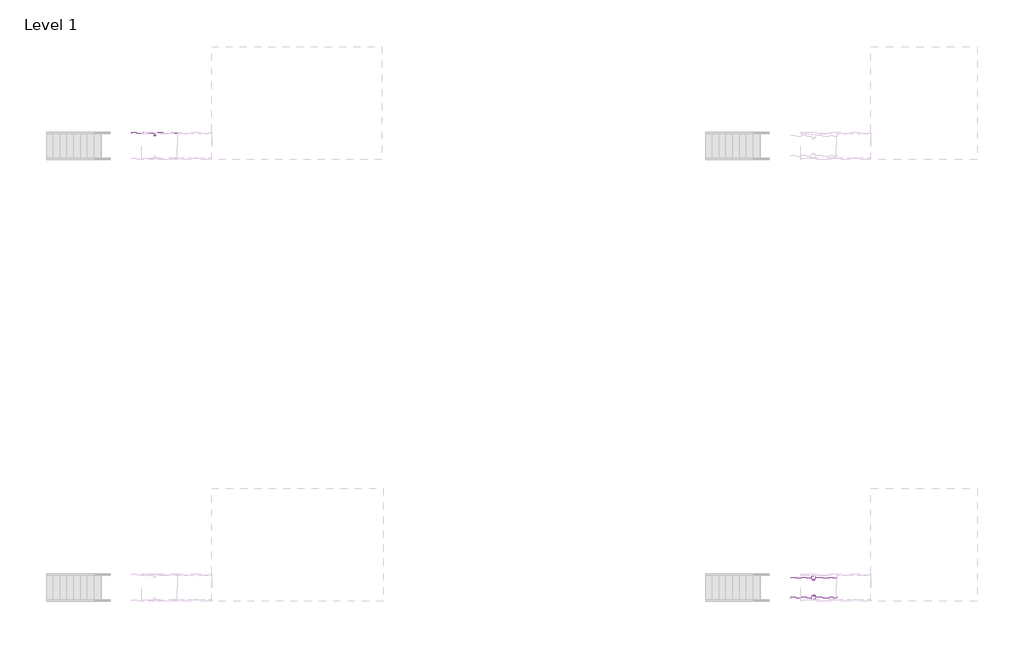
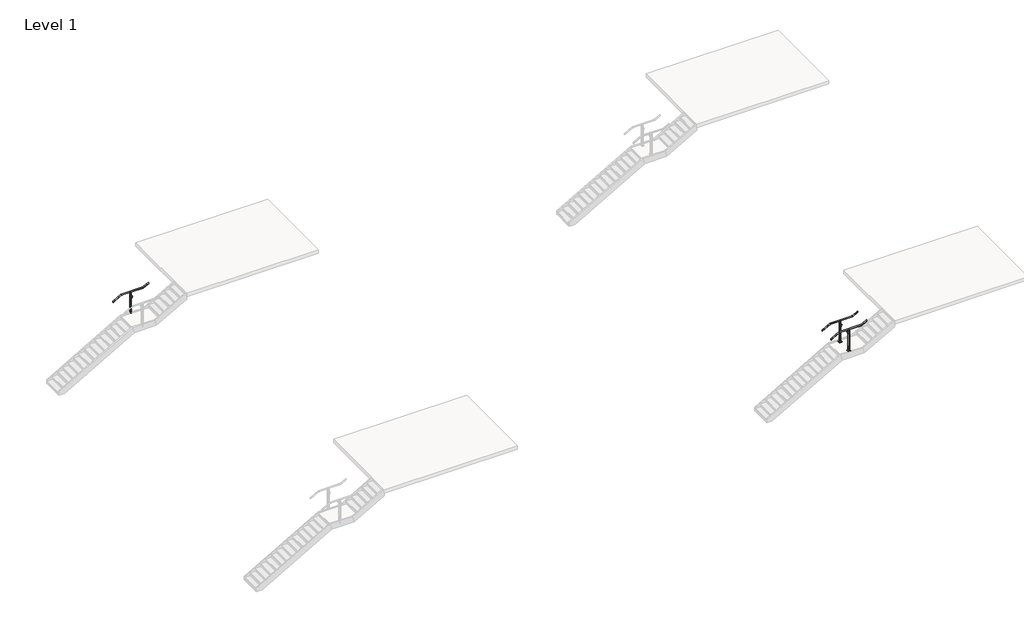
# One storey, part 25 of 36: 3 railings.
"""IFC4 building model written with IfcOpenShell, lengths in millimetres."""

from ifc_helpers import new_model, si_unit, point, frame, frame_2d, origin, place, context, project, spatial, polyline, circle_curve, ellipse_curve, trimmed, segment, composite_curve, outline, extrude, element, save
from ifc_brep_helpers import plane_surface, cylinder_surface, revolved_surface, advanced_brep

model = new_model("IFC4")

# Units and contexts
model_context = context("Model", 3, world=origin())
ifc_project = project(units=[si_unit("LENGTHUNIT", "METRE", prefix="MILLI")], contexts=[model_context])

# Site, building, storey
site = spatial("IfcSite", under=ifc_project)
building = spatial("IfcBuilding", under=site)
storey = spatial("IfcBuildingStorey", under=building, Name="Level 1", Elevation=0.0)

# Railings
placement = place(None, origin())
element("IfcRailing", 1, ObjectType="VIVA-BLADE-Perforated-Weld Mount-Stair-Landing", at=placement, inside=storey, context=model_context, shape_type="SolidModel", body=[
    advanced_brep(
    [(112025.2736551, -1477.5711813, 3047.7740933), (112025.2736551, -1426.7711813, 3047.7740933), (112413.0189918, -1477.5711813, 3269.3428571), (112413.0189918, -1426.7711813, 3269.3428571), (113479.8189918, -1477.5711813, 3269.3428571), (113479.8189918, -1426.7711813, 3269.3428571), (113730.2486551, -1477.5711813, 3412.4455219), (113730.2486551, -1426.7711813, 3412.4455219)],
    [
        (0, 1, ellipse_curve(frame((112025.2736551, -1452.1711813, 3047.7740933), z_axis=(-1.0, 0.0, 0.0), x_axis=(0.0, 0.0, -0.9999999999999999)), 29.2544781, 25.4)),
        (1, 0, ellipse_curve(frame((112025.2736551, -1452.1711813, 3047.7740933), z_axis=(-1.0, 0.0, 0.0), x_axis=(0.0, 0.0, -0.9999999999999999)), 29.2544781, 25.4)),
        (0, 2),
        (2, 3, ellipse_curve(frame((112413.0189918, -1452.1711813, 3269.3428571), z_axis=(-0.9664996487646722, 0.0, -0.2566679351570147), x_axis=(0.25666793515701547, 0.0, -0.9664996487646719)), 26.2804027, 25.4)),
        (3, 1),
        (3, 2, ellipse_curve(frame((112413.0189918, -1452.1711813, 3269.3428571), z_axis=(-0.9664996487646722, 0.0, -0.2566679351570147), x_axis=(0.25666793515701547, 0.0, -0.9664996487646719)), 26.2804027, 25.4)),
        (2, 4),
        (4, 5, ellipse_curve(frame((113479.8189918, -1452.1711813, 3269.3428571), z_axis=(-0.9664996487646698, 0.0, -0.2566679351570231), x_axis=(-0.2566679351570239, 0.0, 0.9664996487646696)), 26.2804027, 25.4)),
        (5, 3),
        (5, 4, ellipse_curve(frame((113479.8189918, -1452.1711813, 3269.3428571), z_axis=(-0.9664996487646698, 0.0, -0.2566679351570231), x_axis=(-0.2566679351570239, 0.0, 0.9664996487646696)), 26.2804027, 25.4)),
        (6, 7, ellipse_curve(frame((113730.2486551, -1452.1711813, 3412.4455219), z_axis=(1.0, 0.0, 0.0), x_axis=(0.0, 0.0, -1.0)), 29.2544781, 25.4)),
        (7, 6, ellipse_curve(frame((113730.2486551, -1452.1711813, 3412.4455219), z_axis=(1.0, 0.0, 0.0), x_axis=(0.0, 0.0, -1.0)), 29.2544781, 25.4)),
        (4, 6),
        (7, 5),
    ],
    [
        plane_surface(frame((112025.2736551, -1452.1711813, 3077.0285714), z_axis=(-1.0, 0.0, 0.0), x_axis=(0.0, 1.0, 0.0))),
        cylinder_surface(frame((112037.8755841, -1452.1711813, 3054.9751956), z_axis=(-0.868243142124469, 0.0, -0.49613893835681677), x_axis=(0.0, 1.0, 0.0)), 25.4),
        cylinder_surface(frame((112406.2736551, -1452.1711813, 3269.3428571), z_axis=(-1.0, 0.0, 0.0), x_axis=(0.0, 1.0, 0.0)), 25.4),
        plane_surface(frame((113730.2486551, -1452.1711813, 3441.7), z_axis=(1.0, 0.0, 0.0), x_axis=(0.0, 1.0, 0.0))),
        cylinder_surface(frame((113485.6755841, -1452.1711813, 3272.6894813), z_axis=(-0.8682431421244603, 0.0, -0.4961389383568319), x_axis=(0.0, 1.0, 0.0)), 25.4),
    ],
    [
        (0, [[1, 2]]),
        (1, [[-1, 3, 4, 5]]),
        (1, [[-2, -5, 6, -3]]),
        (2, [[-4, 7, 8, 9]]),
        (2, [[-6, -9, 10, -7]]),
        (3, [[11, 12]]),
        (4, [[-8, 13, -12, 14]]),
        (4, [[-10, -14, -11, -13]]),
    ],
),
    extrude(outline(composite_curve([segment(trimmed(circle_curve(frame_2d((0.0, -7.0)), 7.0), [point((0.0, -14.0))], [point((0.0, 0.0))], False, "CARTESIAN"), True, "CONTINUOUS"), segment(trimmed(circle_curve(frame_2d((0.0, -7.0)), 7.0), [point((0.0, 0.0))], [point((0.0, -14.0))], False, "CARTESIAN"), True, "CONTINUOUS")], self_intersect=False)), frame((112877.6769052, -1537.8548038, 3013.7229503), z_axis=(0.0012555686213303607, 0.0, 0.999999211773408), x_axis=(0.999999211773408, 0.0, -0.0012555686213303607)), (0.0, 0.0, 1.0), 75.97),
    extrude(outline(composite_curve([segment(polyline([(-1532.5731476, 3098.2581672), (-1531.5467579, 3097.2407802)]), True, "CONTINUOUS"), segment(trimmed(circle_curve(frame_2d((-1532.6027358, 3096.1754583)), 1.5), [point((-1531.5467579, 3097.2407802))], [point((-1531.6173343, 3095.0445366))], False, "CARTESIAN"), True, "CONTINUOUS"), segment(trimmed(circle_curve(frame_2d((-1546.1027358, 3111.669086)), 22.05), [point((-1531.6173343, 3095.0445366))], [point((-1560.5881373, 3095.0445366))], False, "CARTESIAN"), True, "CONTINUOUS"), segment(trimmed(circle_curve(frame_2d((-1559.6027358, 3096.1754583)), 1.5), [point((-1560.5881373, 3095.0445366))], [point((-1560.6587136, 3097.2407802))], False, "CARTESIAN"), True, "CONTINUOUS"), segment(polyline([(-1560.6587136, 3097.2407802), (-1559.632324, 3098.2581672)]), True, "CONTINUOUS"), segment(trimmed(circle_curve(frame_2d((-1546.1027358, 3111.669086)), 19.05), [point((-1559.632324, 3098.2581672))], [point((-1532.5731476, 3098.2581672))], True, "CARTESIAN"), True, "CONTINUOUS")], self_intersect=False)), frame((112841.3255204, 0.0, 0.0), z_axis=(1.0, 0.0, 0.0), x_axis=(0.0, 1.0, 0.0)), (0.0, 0.0, 1.0), 74.5229187),
    extrude(outline(composite_curve([segment(trimmed(circle_curve(frame_2d((3040.5995463, 112877.7368087)), 12.5), [point((3040.5995463, 112865.2368087))], [point((3040.5995463, 112890.2368087))], False, "CARTESIAN"), True, "CONTINUOUS"), segment(trimmed(circle_curve(frame_2d((3040.5995463, 112877.7368087)), 12.5), [point((3040.5995463, 112890.2368087))], [point((3040.5995463, 112865.2368087))], False, "CARTESIAN"), True, "CONTINUOUS")], self_intersect=False)), frame((0.0, -1559.632324, 0.0), z_axis=(0.0, 1.0, 0.0), x_axis=(0.0, 0.0, 1.0)), (0.0, 0.0, 1.0), 82.061346),
    extrude(outline(polyline([(112904.8359907, -1483.920978), (112850.7085907, -1483.920978), (112850.7085907, -1477.570978), (112904.8359907, -1477.570978), (112904.8359907, -1483.920978)])), frame((0.0, 0.0, 3013.6558249), z_axis=(0.0, 0.0, 1.0), x_axis=(1.0, 0.0, 0.0)), (0.0, 0.0, 1.0), 54.1734375),
    advanced_brep(
    [(112922.9985551, -1464.9313049, 3247.3396226), (112922.9985551, -1468.7672024, 3242.9503901), (112922.9985551, -1437.2503101, 3242.3696317), (112922.9985551, -1440.0592404, 3247.1963856), (112832.5237551, -1464.9313049, 3247.3396226), (112832.5237551, -1439.9722683, 3247.2447018), (112832.5237551, -1437.1365167, 3242.4322535), (112832.5237551, -1468.7672024, 3242.9503901)],
    [
        (0, 1, circle_curve(frame((112922.9985551, -1466.4788626, 3244.8213092), z_axis=(1.0, 0.0, 0.0), x_axis=(0.0, -1.0, 0.0)), 2.9558141)),
        (1, 2, circle_curve(frame((112922.9985551, -1452.5009651, 3270.2170736), z_axis=(1.0, 0.0, 0.0), x_axis=(0.0, -1.0, 0.0)), 31.75)),
        (2, 3, circle_curve(frame((112922.9985551, -1438.7276152, 3244.742217), z_axis=(1.0, 0.0, 0.0), x_axis=(0.0, -1.0, 0.0)), 2.7949225)),
        (3, 0, circle_curve(frame((112922.9985551, -1452.3675021, 3269.4544469), z_axis=(-1.0, 0.0, 0.0), x_axis=(0.0, -1.0, 0.0)), 25.4345159)),
        (4, 5, circle_curve(frame((112832.5237551, -1452.3675021, 3269.4544469), z_axis=(1.0, 0.0, 0.0), x_axis=(0.0, -1.0, 0.0)), 25.4345159)),
        (5, 6, circle_curve(frame((112832.5237551, -1438.7276152, 3244.742217), z_axis=(-1.0, 0.0, 0.0), x_axis=(0.0, -1.0, 0.0)), 2.7949225)),
        (6, 7, circle_curve(frame((112832.5237551, -1452.5009651, 3270.2170736), z_axis=(-1.0, 0.0, 0.0), x_axis=(0.0, -1.0, 0.0)), 31.75)),
        (7, 4, circle_curve(frame((112832.5237551, -1466.4788626, 3244.8213092), z_axis=(-1.0, 0.0, 0.0), x_axis=(0.0, -1.0, 0.0)), 2.9558141)),
        (3, 5),
        (4, 0),
        (2, 6),
        (1, 7),
    ],
    [
        plane_surface(frame((112922.9985551, -1477.8020179, 3269.4544469), z_axis=(1.0, 0.0, 0.0), x_axis=(0.0, 0.0, -1.0))),
        plane_surface(frame((112832.5237551, -1477.8020179, 3269.4544469), z_axis=(-1.0, 0.0, 0.0), x_axis=(0.0, 0.0, 1.0))),
        revolved_surface(polyline([(112832.5237551, -1477.8020179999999, 3269.4544469), (112922.9985551, -1477.8020179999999, 3269.4544469)]), (112832.5237551, -1452.3675021, 3269.4544469), (-1.0, 0.0, 0.0)),
        cylinder_surface(frame((112832.5237551, -1438.7276152, 3244.742217), z_axis=(1.0, 0.0, 0.0), x_axis=(0.0, -1.0, 0.0)), 2.7949225),
        cylinder_surface(frame((112832.5237551, -1452.5009651, 3270.2170736), z_axis=(1.0, 0.0, 0.0), x_axis=(0.0, -1.0, 0.0)), 31.75),
        cylinder_surface(frame((112832.5237551, -1466.4788626, 3244.8213092), z_axis=(1.0, 0.0, 0.0), x_axis=(0.0, -1.0, 0.0)), 2.9558141),
    ],
    [
        (0, [[1, 2, 3, 4]]),
        (1, [[5, 6, 7, 8]]),
        (2, [[9, -5, 10, -4]]),
        (3, [[11, -6, -9, -3]]),
        (4, [[12, -7, -11, -2]]),
        (5, [[-10, -8, -12, -1]]),
    ],
),
    advanced_brep(
    [(112890.4611551, -1454.7111813, 3229.6553571), (112904.8290699, -1454.7111813, 3244.023272), (112850.6932402, -1454.7111813, 3244.023272), (112865.0611551, -1454.7111813, 3229.6553571), (112890.4611551, -1449.6311813, 3229.6553571), (112865.0611551, -1449.6311813, 3229.6553571), (112850.6932402, -1449.6311813, 3244.023272), (112904.8290699, -1449.6311813, 3244.023272)],
    [
        (0, 1, circle_curve(frame((112904.8290699, -1454.7111813, 3229.6553571), z_axis=(0.0, 1.0, 0.0), x_axis=(-1.0, 0.0, 0.0)), 14.3679149)),
        (1, 2),
        (2, 3, circle_curve(frame((112850.6932402, -1454.7111813, 3229.6553571), z_axis=(0.0, 1.0, 0.0), x_axis=(-1.0, 0.0, 0.0)), 14.3679149)),
        (3, 0),
        (4, 5),
        (5, 6, circle_curve(frame((112850.6932402, -1449.6311813, 3229.6553571), z_axis=(0.0, -1.0, 0.0), x_axis=(-1.0, 0.0, 0.0)), 14.3679149)),
        (6, 7),
        (7, 4, circle_curve(frame((112904.8290699, -1449.6311813, 3229.6553571), z_axis=(0.0, -1.0, 0.0), x_axis=(-1.0, 0.0, 0.0)), 14.3679149)),
        (3, 5),
        (4, 0),
        (2, 6),
        (1, 7),
    ],
    [
        plane_surface(frame((112865.0611551, -1454.7111813, 3229.6553571), z_axis=(0.0, -1.0, 0.0), x_axis=(-1.0, 0.0, 0.0))),
        plane_surface(frame((112865.0611551, -1449.6311813, 3229.6553571), z_axis=(0.0, 1.0, 0.0), x_axis=(1.0, 0.0, 0.0))),
        plane_surface(frame((112890.4611551, -1454.7111813, 3229.6553571), z_axis=(0.0, 0.0, -1.0), x_axis=(0.0, 1.0, 0.0))),
        revolved_surface(polyline([(112836.3253253, -1449.6311813, 3229.6553571), (112836.3253253, -1454.7111813, 3229.6553571)]), (112850.6932402, -1449.6311813, 3229.6553571), (0.0, 1.0, 0.0)),
        plane_surface(frame((112850.6932402, -1454.7111813, 3244.023272), z_axis=(0.0, 0.0, 1.0), x_axis=(0.0, 1.0, 0.0))),
        revolved_surface(polyline([(112890.46115500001, -1449.6311813, 3229.6553571), (112890.46115500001, -1454.7111813, 3229.6553571)]), (112904.8290699, -1449.6311813, 3229.6553571), (0.0, 1.0, 0.0)),
    ],
    [
        (0, [[1, 2, 3, 4]]),
        (1, [[5, 6, 7, 8]]),
        (2, [[9, -5, 10, -4]]),
        (3, [[11, -6, -9, -3]]),
        (4, [[12, -7, -11, -2]]),
        (5, [[-10, -8, -12, -1]]),
    ],
),
    extrude(outline(polyline([(112850.6863194, -1477.570978), (112850.6863194, -1426.7686534), (112858.7111551, -1426.7686534), (112858.7111551, -1477.570978), (112850.6863194, -1477.570978)])), frame((0.0, 0.0, 2237.6440557), z_axis=(0.0, 0.0, 1.0), x_axis=(1.0, 0.0, 0.0)), (0.0, 0.0, 1.0), 974.5488015),
    extrude(outline(polyline([(112885.6901563, -1477.5705791), (112869.7541659, -1477.5705791), (112869.7541659, -1426.7705869), (112885.6901563, -1426.7705869), (112885.6901563, -1477.5705791)])), frame((0.0, 0.0, 2075.5428571), z_axis=(0.0, 0.0, 1.0), x_axis=(1.0, 0.0, 0.0)), (0.0, 0.0, 1.0), 342.9),
    extrude(outline(composite_curve([segment(trimmed(circle_curve(frame_2d((-1439.4687044, 3201.2845501)), 8.89), [point((-1430.5787044, 3201.2845501))], [point((-1448.3587044, 3201.2845501))], False, "CARTESIAN"), True, "CONTINUOUS"), segment(trimmed(circle_curve(frame_2d((-1439.4687044, 3201.2845501)), 8.89), [point((-1448.3587044, 3201.2845501))], [point((-1430.5787044, 3201.2845501))], False, "CARTESIAN"), True, "CONTINUOUS")], self_intersect=False)), frame((112846.0111551, 0.0, 0.0), z_axis=(1.0, 0.0, 0.0), x_axis=(0.0, 1.0, 0.0)), (0.0, 0.0, 1.0), 63.4880631),
    extrude(outline(composite_curve([segment(trimmed(circle_curve(frame_2d((-1464.8686024, 3201.2845501)), 8.89), [point((-1455.9786024, 3201.2845501))], [point((-1473.7586024, 3201.2845501))], False, "CARTESIAN"), True, "CONTINUOUS"), segment(trimmed(circle_curve(frame_2d((-1464.8686024, 3201.2845501)), 8.89), [point((-1473.7586024, 3201.2845501))], [point((-1455.9786024, 3201.2845501))], False, "CARTESIAN"), True, "CONTINUOUS")], self_intersect=False)), frame((112846.0111551, 0.0, 0.0), z_axis=(1.0, 0.0, 0.0), x_axis=(0.0, 1.0, 0.0)), (0.0, 0.0, 1.0), 63.4880631),
    extrude(outline(polyline([(3189.9551571, 112858.7111551), (3189.9551571, 112896.8111551), (3223.3053571, 112896.8111551), (3229.6553571, 112890.4611551), (3229.6553571, 112865.0611551), (3223.3053571, 112858.7111551), (3189.9551571, 112858.7111551)])), frame((0.0, -1477.5711813, 0.0), z_axis=(0.0, 1.0, 0.0), x_axis=(0.0, 0.0, 1.0)), (0.0, 0.0, 1.0), 50.8025279),
    extrude(outline(composite_curve([segment(trimmed(circle_curve(frame_2d((-1452.171387, 2385.1476493)), 19.05), [point((-1433.121387, 2385.1476493))], [point((-1471.221387, 2385.1476493))], False, "CARTESIAN"), True, "CONTINUOUS"), segment(trimmed(circle_curve(frame_2d((-1452.171387, 2385.1476493)), 19.05), [point((-1471.221387, 2385.1476493))], [point((-1433.121387, 2385.1476493))], False, "CARTESIAN"), True, "CONTINUOUS")], self_intersect=False)), frame((112841.3121551, 0.0, 0.0), z_axis=(1.0, 0.0, 0.0), x_axis=(0.0, 1.0, 0.0)), (0.0, 0.0, 1.0), 72.8981531),
    extrude(outline(composite_curve([segment(trimmed(circle_curve(frame_2d((-1452.171387, 2296.2476493)), 19.05), [point((-1433.121387, 2296.2476493))], [point((-1471.221387, 2296.2476493))], False, "CARTESIAN"), True, "CONTINUOUS"), segment(trimmed(circle_curve(frame_2d((-1452.171387, 2296.2476493)), 19.05), [point((-1471.221387, 2296.2476493))], [point((-1433.121387, 2296.2476493))], False, "CARTESIAN"), True, "CONTINUOUS")], self_intersect=False)), frame((112841.3121551, 0.0, 0.0), z_axis=(1.0, 0.0, 0.0), x_axis=(0.0, 1.0, 0.0)), (0.0, 0.0, 1.0), 72.8981531),
    extrude(outline(polyline([(112896.811117, -1477.570978), (112896.811117, -1426.7686534), (112904.812117, -1426.7686534), (112904.812117, -1477.570978), (112896.811117, -1477.570978)])), frame((0.0, 0.0, 2237.6440557), z_axis=(0.0, 0.0, 1.0), x_axis=(1.0, 0.0, 0.0)), (0.0, 0.0, 1.0), 974.5488015),
])
element("IfcRailing", 2, ObjectType="VIVA-BLADE-Wire Mesh-Floor Mount-Stair-Landing", at=placement, inside=storey, context=model_context, shape_type="SolidModel", body=[
    advanced_brep(
    [(136575.2474271, -18796.3846057, 3047.7740933), (136575.2474271, -18745.5846057, 3047.7740933), (136962.9927638, -18796.3846057, 3269.3428571), (136962.9927638, -18745.5846057, 3269.3428571), (138029.7927638, -18796.3846057, 3269.3428571), (138029.7927638, -18745.5846057, 3269.3428571), (138280.2224271, -18796.3846057, 3412.4455219), (138280.2224271, -18745.5846057, 3412.4455219)],
    [
        (0, 1, ellipse_curve(frame((136575.2474271, -18770.9846057, 3047.7740933), z_axis=(-1.0, 0.0, 0.0), x_axis=(0.0, 0.0, -0.9999999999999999)), 29.2544781, 25.4)),
        (1, 0, ellipse_curve(frame((136575.2474271, -18770.9846057, 3047.7740933), z_axis=(-1.0, 0.0, 0.0), x_axis=(0.0, 0.0, -0.9999999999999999)), 29.2544781, 25.4)),
        (0, 2),
        (2, 3, ellipse_curve(frame((136962.9927638, -18770.9846057, 3269.3428571), z_axis=(-0.9664996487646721, 0.0, -0.2566679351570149), x_axis=(0.25666793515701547, 0.0, -0.9664996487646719)), 26.2804027, 25.4)),
        (3, 1),
        (3, 2, ellipse_curve(frame((136962.9927638, -18770.9846057, 3269.3428571), z_axis=(-0.9664996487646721, 0.0, -0.2566679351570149), x_axis=(0.25666793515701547, 0.0, -0.9664996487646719)), 26.2804027, 25.4)),
        (2, 4),
        (4, 5, ellipse_curve(frame((138029.7927638, -18770.9846057, 3269.3428571), z_axis=(-0.9664996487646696, 0.0, -0.25666793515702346), x_axis=(-0.2566679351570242, 0.0, 0.9664996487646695)), 26.2804027, 25.4)),
        (5, 3),
        (5, 4, ellipse_curve(frame((138029.7927638, -18770.9846057, 3269.3428571), z_axis=(-0.9664996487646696, 0.0, -0.25666793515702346), x_axis=(-0.2566679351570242, 0.0, 0.9664996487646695)), 26.2804027, 25.4)),
        (6, 7, ellipse_curve(frame((138280.2224271, -18770.9846057, 3412.4455219), z_axis=(1.0, 0.0, 0.0), x_axis=(0.0, 0.0, -1.0)), 29.2544781, 25.4)),
        (7, 6, ellipse_curve(frame((138280.2224271, -18770.9846057, 3412.4455219), z_axis=(1.0, 0.0, 0.0), x_axis=(0.0, 0.0, -1.0)), 29.2544781, 25.4)),
        (4, 6),
        (7, 5),
    ],
    [
        plane_surface(frame((136575.2474271, -18770.9846057, 3077.0285714), z_axis=(-1.0, 0.0, 0.0), x_axis=(0.0, 1.0, 0.0))),
        cylinder_surface(frame((136587.8493561, -18770.9846057, 3054.9751956), z_axis=(-0.8682431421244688, 0.0, -0.496138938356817), x_axis=(0.0, 1.0, 0.0)), 25.4),
        cylinder_surface(frame((136956.2474271, -18770.9846057, 3269.3428571), z_axis=(-1.0, 0.0, 0.0), x_axis=(0.0, 1.0, 0.0)), 25.4),
        plane_surface(frame((138280.2224271, -18770.9846057, 3441.7), z_axis=(1.0, 0.0, 0.0), x_axis=(0.0, 1.0, 0.0))),
        cylinder_surface(frame((138035.6493561, -18770.9846057, 3272.6894813), z_axis=(-0.8682431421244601, 0.0, -0.49613893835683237), x_axis=(0.0, 1.0, 0.0)), 25.4),
    ],
    [
        (0, [[1, 2]]),
        (1, [[-1, 3, 4, 5]]),
        (1, [[-2, -5, 6, -3]]),
        (2, [[-4, 7, 8, 9]]),
        (2, [[-6, -9, 10, -7]]),
        (3, [[11, 12]]),
        (4, [[-8, 13, -12, 14]]),
        (4, [[-10, -14, -11, -13]]),
    ],
),
    extrude(outline(composite_curve([segment(trimmed(circle_curve(frame_2d((0.0, 7.0)), 7.0), [point((0.0, 14.0))], [point((0.0, 0.0))], False, "CARTESIAN"), True, "CONTINUOUS"), segment(trimmed(circle_curve(frame_2d((0.0, 7.0)), 7.0), [point((0.0, 0.0))], [point((0.0, 14.0))], False, "CARTESIAN"), True, "CONTINUOUS")], self_intersect=False)), frame((137427.6506773, -18685.3009833, 3013.7229503), z_axis=(0.0012555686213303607, 0.0, 0.999999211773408), x_axis=(0.999999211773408, 0.0, -0.0012555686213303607)), (0.0, 0.0, 1.0), 75.97),
    extrude(outline(composite_curve([segment(trimmed(circle_curve(frame_2d((-18677.0530512, 3111.669086)), 19.05), [point((-18690.5826395, 3098.2581672))], [point((-18663.523463, 3098.2581672))], True, "CARTESIAN"), True, "CONTINUOUS"), segment(polyline([(-18663.523463, 3098.2581672), (-18662.4970734, 3097.2407802)]), True, "CONTINUOUS"), segment(trimmed(circle_curve(frame_2d((-18663.5530512, 3096.1754583)), 1.5), [point((-18662.4970734, 3097.2407802))], [point((-18662.5676498, 3095.0445366))], False, "CARTESIAN"), True, "CONTINUOUS"), segment(trimmed(circle_curve(frame_2d((-18677.0530512, 3111.669086)), 22.05), [point((-18662.5676498, 3095.0445366))], [point((-18691.5384527, 3095.0445366))], False, "CARTESIAN"), True, "CONTINUOUS"), segment(trimmed(circle_curve(frame_2d((-18690.5530512, 3096.1754583)), 1.5), [point((-18691.5384527, 3095.0445366))], [point((-18691.6090291, 3097.2407802))], False, "CARTESIAN"), True, "CONTINUOUS"), segment(polyline([(-18691.6090291, 3097.2407802), (-18690.5826395, 3098.2581672)]), True, "CONTINUOUS")], self_intersect=False)), frame((137391.2992925, 0.0, 0.0), z_axis=(1.0, 0.0, 0.0), x_axis=(0.0, 1.0, 0.0)), (0.0, 0.0, 1.0), 74.5229187),
    extrude(outline(composite_curve([segment(trimmed(circle_curve(frame_2d((3040.5995463, 137427.7105808)), 12.5), [point((3040.5995463, 137415.2105808))], [point((3040.5995463, 137440.2105808))], False, "CARTESIAN"), True, "CONTINUOUS"), segment(trimmed(circle_curve(frame_2d((3040.5995463, 137427.7105808)), 12.5), [point((3040.5995463, 137440.2105808))], [point((3040.5995463, 137415.2105808))], False, "CARTESIAN"), True, "CONTINUOUS")], self_intersect=False)), frame((0.0, -18745.584809, 0.0), z_axis=(0.0, 1.0, 0.0), x_axis=(0.0, 0.0, 1.0)), (0.0, 0.0, 1.0), 82.061346),
    extrude(outline(polyline([(137454.8097628, -18739.234809), (137454.8097628, -18745.584809), (137400.6823628, -18745.584809), (137400.6823628, -18739.234809), (137454.8097628, -18739.234809)])), frame((0.0, 0.0, 3013.6558249), z_axis=(0.0, 0.0, 1.0), x_axis=(1.0, 0.0, 0.0)), (0.0, 0.0, 1.0), 54.1734375),
    advanced_brep(
    [(137472.9723271, -18758.2244821, 3247.3396226), (137472.9723271, -18783.0965466, 3247.1963856), (137472.9723271, -18785.9054769, 3242.3696317), (137472.9723271, -18754.3885847, 3242.9503901), (137382.4975271, -18758.2244821, 3247.3396226), (137382.4975271, -18754.3885847, 3242.9503901), (137382.4975271, -18786.0192703, 3242.4322535), (137382.4975271, -18783.1835187, 3247.2447018)],
    [
        (0, 1, circle_curve(frame((137472.9723271, -18770.788285, 3269.4544469), z_axis=(-1.0, 0.0, 0.0), x_axis=(0.0, 1.0, 0.0)), 25.4345159)),
        (1, 2, circle_curve(frame((137472.9723271, -18784.4281719, 3244.742217), z_axis=(1.0, 0.0, 0.0), x_axis=(0.0, 1.0, 0.0)), 2.7949225)),
        (2, 3, circle_curve(frame((137472.9723271, -18770.6548219, 3270.2170736), z_axis=(1.0, 0.0, 0.0), x_axis=(0.0, 1.0, 0.0)), 31.75)),
        (3, 0, circle_curve(frame((137472.9723271, -18756.6769244, 3244.8213092), z_axis=(1.0, 0.0, 0.0), x_axis=(0.0, 1.0, 0.0)), 2.9558141)),
        (4, 5, circle_curve(frame((137382.4975271, -18756.6769244, 3244.8213092), z_axis=(-1.0, 0.0, 0.0), x_axis=(0.0, 1.0, 0.0)), 2.9558141)),
        (5, 6, circle_curve(frame((137382.4975271, -18770.6548219, 3270.2170736), z_axis=(-1.0, 0.0, 0.0), x_axis=(0.0, 1.0, 0.0)), 31.75)),
        (6, 7, circle_curve(frame((137382.4975271, -18784.4281719, 3244.742217), z_axis=(-1.0, 0.0, 0.0), x_axis=(0.0, 1.0, 0.0)), 2.7949225)),
        (7, 4, circle_curve(frame((137382.4975271, -18770.788285, 3269.4544469), z_axis=(1.0, 0.0, 0.0), x_axis=(0.0, 1.0, 0.0)), 25.4345159)),
        (0, 4),
        (7, 1),
        (6, 2),
        (5, 3),
    ],
    [
        plane_surface(frame((137472.9723271, -18745.3537691, 3269.4544469), z_axis=(1.0, 0.0, 0.0), x_axis=(0.0, 0.0, -1.0))),
        plane_surface(frame((137382.4975271, -18745.3537691, 3269.4544469), z_axis=(-1.0, 0.0, 0.0), x_axis=(0.0, 0.0, 1.0))),
        revolved_surface(polyline([(137382.4975271, -18745.3537691, 3269.4544469), (137472.9723271, -18745.3537691, 3269.4544469)]), (137382.4975271, -18770.788285, 3269.4544469), (-1.0, 0.0, 0.0)),
        cylinder_surface(frame((137382.4975271, -18784.4281719, 3244.742217), z_axis=(1.0, 0.0, 0.0), x_axis=(0.0, 1.0, 0.0)), 2.7949225),
        cylinder_surface(frame((137382.4975271, -18770.6548219, 3270.2170736), z_axis=(1.0, 0.0, 0.0), x_axis=(0.0, 1.0, 0.0)), 31.75),
        cylinder_surface(frame((137382.4975271, -18756.6769244, 3244.8213092), z_axis=(1.0, 0.0, 0.0), x_axis=(0.0, 1.0, 0.0)), 2.9558141),
    ],
    [
        (0, [[1, 2, 3, 4]]),
        (1, [[5, 6, 7, 8]]),
        (2, [[-1, 9, -8, 10]]),
        (3, [[-2, -10, -7, 11]]),
        (4, [[-3, -11, -6, 12]]),
        (5, [[-4, -12, -5, -9]]),
    ],
),
    advanced_brep(
    [(137440.4349271, -18768.4446057, 3229.6553571), (137415.0349271, -18768.4446057, 3229.6553571), (137400.6670122, -18768.4446057, 3244.023272), (137454.802842, -18768.4446057, 3244.023272), (137440.4349271, -18773.5246057, 3229.6553571), (137454.802842, -18773.5246057, 3244.023272), (137400.6670122, -18773.5246057, 3244.023272), (137415.0349271, -18773.5246057, 3229.6553571)],
    [
        (0, 1),
        (1, 2, circle_curve(frame((137400.6670122, -18768.4446057, 3229.6553571), z_axis=(0.0, -1.0, 0.0), x_axis=(-1.0, 0.0, 0.0)), 14.3679149)),
        (2, 3),
        (3, 0, circle_curve(frame((137454.802842, -18768.4446057, 3229.6553571), z_axis=(0.0, -1.0, 0.0), x_axis=(-1.0, 0.0, 0.0)), 14.3679149)),
        (4, 5, circle_curve(frame((137454.802842, -18773.5246057, 3229.6553571), z_axis=(0.0, 1.0, 0.0), x_axis=(-1.0, 0.0, 0.0)), 14.3679149)),
        (5, 6),
        (6, 7, circle_curve(frame((137400.6670122, -18773.5246057, 3229.6553571), z_axis=(0.0, 1.0, 0.0), x_axis=(-1.0, 0.0, 0.0)), 14.3679149)),
        (7, 4),
        (0, 4),
        (7, 1),
        (6, 2),
        (5, 3),
    ],
    [
        plane_surface(frame((137415.0349271, -18768.4446057, 3229.6553571), z_axis=(0.0, 1.0, 0.0), x_axis=(-1.0, 0.0, 0.0))),
        plane_surface(frame((137415.0349271, -18773.5246057, 3229.6553571), z_axis=(0.0, -1.0, 0.0), x_axis=(1.0, 0.0, 0.0))),
        plane_surface(frame((137440.4349271, -18768.4446057, 3229.6553571), z_axis=(0.0, 0.0, -1.0), x_axis=(0.0, -1.0, 0.0))),
        revolved_surface(polyline([(137386.29909729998, -18773.5246057, 3229.6553571), (137386.29909729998, -18768.4446057, 3229.6553571)]), (137400.6670122, -18773.5246057, 3229.6553571), (0.0, -1.0, 0.0)),
        plane_surface(frame((137400.6670122, -18768.4446057, 3244.023272), z_axis=(0.0, 0.0, 1.0), x_axis=(0.0, -1.0, 0.0))),
        revolved_surface(polyline([(137440.4349271, -18773.5246057, 3229.6553571), (137440.4349271, -18768.4446057, 3229.6553571)]), (137454.802842, -18773.5246057, 3229.6553571), (0.0, -1.0, 0.0)),
    ],
    [
        (0, [[1, 2, 3, 4]]),
        (1, [[5, 6, 7, 8]]),
        (2, [[-1, 9, -8, 10]]),
        (3, [[-2, -10, -7, 11]]),
        (4, [[-3, -11, -6, 12]]),
        (5, [[-4, -12, -5, -9]]),
    ],
),
    extrude(outline(polyline([(137491.2229903, -18841.3552914), (137364.2229903, -18841.3552914), (137364.2229903, -18707.4857998), (137491.2229903, -18707.4857998), (137491.2229903, -18841.3552914)]), holes=[composite_curve([segment(trimmed(circle_curve(frame_2d((137383.2729903, -18815.4334117)), 4.7625), [point((137383.2729903, -18820.1959117))], [point((137383.2729903, -18810.6709117))], True, "CARTESIAN"), True, "CONTINUOUS"), segment(trimmed(circle_curve(frame_2d((137383.2729903, -18815.4334117)), 4.7625), [point((137383.2729903, -18810.6709117))], [point((137383.2729903, -18820.1959117))], True, "CARTESIAN"), True, "CONTINUOUS")], self_intersect=False), composite_curve([segment(trimmed(circle_curve(frame_2d((137383.2729903, -18726.5357998)), 4.7625), [point((137383.2729903, -18731.2982998))], [point((137383.2729903, -18721.7732998))], True, "CARTESIAN"), True, "CONTINUOUS"), segment(trimmed(circle_curve(frame_2d((137383.2729903, -18726.5357998)), 4.7625), [point((137383.2729903, -18721.7732998))], [point((137383.2729903, -18731.2982998))], True, "CARTESIAN"), True, "CONTINUOUS")], self_intersect=False), composite_curve([segment(trimmed(circle_curve(frame_2d((137472.1729903, -18726.5357998)), 4.7625), [point((137472.1729903, -18731.2982998))], [point((137472.1729903, -18721.7732998))], True, "CARTESIAN"), True, "CONTINUOUS"), segment(trimmed(circle_curve(frame_2d((137472.1729903, -18726.5357998)), 4.7625), [point((137472.1729903, -18721.7732998))], [point((137472.1729903, -18731.2982998))], True, "CARTESIAN"), True, "CONTINUOUS")], self_intersect=False), composite_curve([segment(trimmed(circle_curve(frame_2d((137472.1729903, -18815.4334117)), 4.7625), [point((137472.1729903, -18820.1959117))], [point((137472.1729903, -18810.6709117))], True, "CARTESIAN"), True, "CONTINUOUS"), segment(trimmed(circle_curve(frame_2d((137472.1729903, -18815.4334117)), 4.7625), [point((137472.1729903, -18810.6709117))], [point((137472.1729903, -18820.1959117))], True, "CARTESIAN"), True, "CONTINUOUS")], self_intersect=False)]), frame((0.0, 0.0, 2177.1428571), z_axis=(0.0, 0.0, 1.0), x_axis=(1.0, 0.0, 0.0)), (0.0, 0.0, 1.0), 9.525),
    extrude(outline(polyline([(137400.6600914, -18745.584809), (137408.6849271, -18745.584809), (137408.6849271, -18796.3871337), (137400.6600914, -18796.3871337), (137400.6600914, -18745.584809)])), frame((0.0, 0.0, 2237.6440557), z_axis=(0.0, 0.0, 1.0), x_axis=(1.0, 0.0, 0.0)), (0.0, 0.0, 1.0), 974.5488015),
    extrude(outline(polyline([(137435.6639284, -18745.5852079), (137435.6639284, -18796.3852002), (137419.7279379, -18796.3852002), (137419.7279379, -18745.5852079), (137435.6639284, -18745.5852079)])), frame((0.0, 0.0, 2186.6678571), z_axis=(0.0, 0.0, 1.0), x_axis=(1.0, 0.0, 0.0)), (0.0, 0.0, 1.0), 231.775),
    extrude(outline(composite_curve([segment(trimmed(circle_curve(frame_2d((-18783.6870826, 3201.2845501)), 8.89), [point((-18792.5770826, 3201.2845501))], [point((-18774.7970826, 3201.2845501))], False, "CARTESIAN"), True, "CONTINUOUS"), segment(trimmed(circle_curve(frame_2d((-18783.6870826, 3201.2845501)), 8.89), [point((-18774.7970826, 3201.2845501))], [point((-18792.5770826, 3201.2845501))], False, "CARTESIAN"), True, "CONTINUOUS")], self_intersect=False)), frame((137395.9849271, 0.0, 0.0), z_axis=(1.0, 0.0, 0.0), x_axis=(0.0, 1.0, 0.0)), (0.0, 0.0, 1.0), 63.4880631),
    extrude(outline(composite_curve([segment(trimmed(circle_curve(frame_2d((-18758.2871847, 3201.2845501)), 8.89), [point((-18767.1771847, 3201.2845501))], [point((-18749.3971847, 3201.2845501))], False, "CARTESIAN"), True, "CONTINUOUS"), segment(trimmed(circle_curve(frame_2d((-18758.2871847, 3201.2845501)), 8.89), [point((-18749.3971847, 3201.2845501))], [point((-18767.1771847, 3201.2845501))], False, "CARTESIAN"), True, "CONTINUOUS")], self_intersect=False)), frame((137395.9849271, 0.0, 0.0), z_axis=(1.0, 0.0, 0.0), x_axis=(0.0, 1.0, 0.0)), (0.0, 0.0, 1.0), 63.4880631),
    extrude(outline(polyline([(3189.9551571, 137408.6849271), (3189.9551571, 137446.7849271), (3223.3053571, 137446.7849271), (3229.6553571, 137440.4349271), (3229.6553571, 137415.0349271), (3223.3053571, 137408.6849271), (3189.9551571, 137408.6849271)])), frame((0.0, -18796.3871337, 0.0), z_axis=(0.0, 1.0, 0.0), x_axis=(0.0, 0.0, 1.0)), (0.0, 0.0, 1.0), 50.8025279),
    extrude(outline(composite_curve([segment(trimmed(circle_curve(frame_2d((-18770.9844, 2385.1476493)), 19.05), [point((-18790.0344, 2385.1476493))], [point((-18751.9344, 2385.1476493))], False, "CARTESIAN"), True, "CONTINUOUS"), segment(trimmed(circle_curve(frame_2d((-18770.9844, 2385.1476493)), 19.05), [point((-18751.9344, 2385.1476493))], [point((-18790.0344, 2385.1476493))], False, "CARTESIAN"), True, "CONTINUOUS")], self_intersect=False)), frame((137391.2859271, 0.0, 0.0), z_axis=(1.0, 0.0, 0.0), x_axis=(0.0, 1.0, 0.0)), (0.0, 0.0, 1.0), 72.8981531),
    extrude(outline(composite_curve([segment(trimmed(circle_curve(frame_2d((-18770.9844, 2296.2476493)), 19.05), [point((-18790.0344, 2296.2476493))], [point((-18751.9344, 2296.2476493))], False, "CARTESIAN"), True, "CONTINUOUS"), segment(trimmed(circle_curve(frame_2d((-18770.9844, 2296.2476493)), 19.05), [point((-18751.9344, 2296.2476493))], [point((-18790.0344, 2296.2476493))], False, "CARTESIAN"), True, "CONTINUOUS")], self_intersect=False)), frame((137391.2859271, 0.0, 0.0), z_axis=(1.0, 0.0, 0.0), x_axis=(0.0, 1.0, 0.0)), (0.0, 0.0, 1.0), 72.8981531),
    extrude(outline(polyline([(137446.7848891, -18745.584809), (137454.7858891, -18745.584809), (137454.7858891, -18796.3871337), (137446.7848891, -18796.3871337), (137446.7848891, -18745.584809)])), frame((0.0, 0.0, 2237.6440557), z_axis=(0.0, 0.0, 1.0), x_axis=(1.0, 0.0, 0.0)), (0.0, 0.0, 1.0), 974.5488015),
])
element("IfcRailing", 3, ObjectType="VIVA-BLADE-Wire Mesh-Floor Mount-Stair-Landing", at=placement, inside=storey, context=model_context, shape_type="SolidModel", body=[
    advanced_brep(
    [(136575.2474271, -18059.7846057, 3047.7740933), (136575.2474271, -18008.9846057, 3047.7740933), (136962.9927638, -18059.7846057, 3269.3428571), (136962.9927638, -18008.9846057, 3269.3428571), (138029.7927638, -18059.7846057, 3269.3428571), (138029.7927638, -18008.9846057, 3269.3428571), (138280.2224271, -18059.7846057, 3412.4455219), (138280.2224271, -18008.9846057, 3412.4455219)],
    [
        (0, 1, ellipse_curve(frame((136575.2474271, -18034.3846057, 3047.7740933), z_axis=(-1.0, 0.0, 0.0), x_axis=(0.0, 0.0, -0.9999999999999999)), 29.2544781, 25.4)),
        (1, 0, ellipse_curve(frame((136575.2474271, -18034.3846057, 3047.7740933), z_axis=(-1.0, 0.0, 0.0), x_axis=(0.0, 0.0, -0.9999999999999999)), 29.2544781, 25.4)),
        (0, 2),
        (2, 3, ellipse_curve(frame((136962.9927638, -18034.3846057, 3269.3428571), z_axis=(-0.9664996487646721, 0.0, -0.2566679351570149), x_axis=(0.25666793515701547, 0.0, -0.9664996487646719)), 26.2804027, 25.4)),
        (3, 1),
        (3, 2, ellipse_curve(frame((136962.9927638, -18034.3846057, 3269.3428571), z_axis=(-0.9664996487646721, 0.0, -0.2566679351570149), x_axis=(0.25666793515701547, 0.0, -0.9664996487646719)), 26.2804027, 25.4)),
        (2, 4),
        (4, 5, ellipse_curve(frame((138029.7927638, -18034.3846057, 3269.3428571), z_axis=(-0.9664996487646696, 0.0, -0.25666793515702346), x_axis=(-0.2566679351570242, 0.0, 0.9664996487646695)), 26.2804027, 25.4)),
        (5, 3),
        (5, 4, ellipse_curve(frame((138029.7927638, -18034.3846057, 3269.3428571), z_axis=(-0.9664996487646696, 0.0, -0.25666793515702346), x_axis=(-0.2566679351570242, 0.0, 0.9664996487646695)), 26.2804027, 25.4)),
        (6, 7, ellipse_curve(frame((138280.2224271, -18034.3846057, 3412.4455219), z_axis=(1.0, 0.0, 0.0), x_axis=(0.0, 0.0, -1.0)), 29.2544781, 25.4)),
        (7, 6, ellipse_curve(frame((138280.2224271, -18034.3846057, 3412.4455219), z_axis=(1.0, 0.0, 0.0), x_axis=(0.0, 0.0, -1.0)), 29.2544781, 25.4)),
        (4, 6),
        (7, 5),
    ],
    [
        plane_surface(frame((136575.2474271, -18034.3846057, 3077.0285714), z_axis=(-1.0, 0.0, 0.0), x_axis=(0.0, 1.0, 0.0))),
        cylinder_surface(frame((136587.8493561, -18034.3846057, 3054.9751956), z_axis=(-0.8682431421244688, 0.0, -0.496138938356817), x_axis=(0.0, 1.0, 0.0)), 25.4),
        cylinder_surface(frame((136956.2474271, -18034.3846057, 3269.3428571), z_axis=(-1.0, 0.0, 0.0), x_axis=(0.0, 1.0, 0.0)), 25.4),
        plane_surface(frame((138280.2224271, -18034.3846057, 3441.7), z_axis=(1.0, 0.0, 0.0), x_axis=(0.0, 1.0, 0.0))),
        cylinder_surface(frame((138035.6493561, -18034.3846057, 3272.6894813), z_axis=(-0.8682431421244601, 0.0, -0.49613893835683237), x_axis=(0.0, 1.0, 0.0)), 25.4),
    ],
    [
        (0, [[1, 2]]),
        (1, [[-1, 3, 4, 5]]),
        (1, [[-2, -5, 6, -3]]),
        (2, [[-4, 7, 8, 9]]),
        (2, [[-6, -9, 10, -7]]),
        (3, [[11, 12]]),
        (4, [[-8, 13, -12, 14]]),
        (4, [[-10, -14, -11, -13]]),
    ],
),
    extrude(outline(composite_curve([segment(trimmed(circle_curve(frame_2d((0.0, -7.0)), 7.0), [point((0.0, -14.0))], [point((0.0, 0.0))], False, "CARTESIAN"), True, "CONTINUOUS"), segment(trimmed(circle_curve(frame_2d((0.0, -7.0)), 7.0), [point((0.0, 0.0))], [point((0.0, -14.0))], False, "CARTESIAN"), True, "CONTINUOUS")], self_intersect=False)), frame((137427.6506773, -18120.0682282, 3013.7229503), z_axis=(0.0012555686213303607, 0.0, 0.999999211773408), x_axis=(0.999999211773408, 0.0, -0.0012555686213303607)), (0.0, 0.0, 1.0), 75.97),
    extrude(outline(composite_curve([segment(polyline([(-18114.786572, 3098.2581672), (-18113.7601823, 3097.2407802)]), True, "CONTINUOUS"), segment(trimmed(circle_curve(frame_2d((-18114.8161602, 3096.1754583)), 1.5), [point((-18113.7601823, 3097.2407802))], [point((-18113.8307587, 3095.0445366))], False, "CARTESIAN"), True, "CONTINUOUS"), segment(trimmed(circle_curve(frame_2d((-18128.3161602, 3111.669086)), 22.05), [point((-18113.8307587, 3095.0445366))], [point((-18142.8015617, 3095.0445366))], False, "CARTESIAN"), True, "CONTINUOUS"), segment(trimmed(circle_curve(frame_2d((-18141.8161602, 3096.1754583)), 1.5), [point((-18142.8015617, 3095.0445366))], [point((-18142.872138, 3097.2407802))], False, "CARTESIAN"), True, "CONTINUOUS"), segment(polyline([(-18142.872138, 3097.2407802), (-18141.8457484, 3098.2581672)]), True, "CONTINUOUS"), segment(trimmed(circle_curve(frame_2d((-18128.3161602, 3111.669086)), 19.05), [point((-18141.8457484, 3098.2581672))], [point((-18114.786572, 3098.2581672))], True, "CARTESIAN"), True, "CONTINUOUS")], self_intersect=False)), frame((137391.2992925, 0.0, 0.0), z_axis=(1.0, 0.0, 0.0), x_axis=(0.0, 1.0, 0.0)), (0.0, 0.0, 1.0), 74.5229187),
    extrude(outline(composite_curve([segment(trimmed(circle_curve(frame_2d((3040.5995463, 137427.7105808)), 12.5), [point((3040.5995463, 137415.2105808))], [point((3040.5995463, 137440.2105808))], False, "CARTESIAN"), True, "CONTINUOUS"), segment(trimmed(circle_curve(frame_2d((3040.5995463, 137427.7105808)), 12.5), [point((3040.5995463, 137440.2105808))], [point((3040.5995463, 137415.2105808))], False, "CARTESIAN"), True, "CONTINUOUS")], self_intersect=False)), frame((0.0, -18141.8457484, 0.0), z_axis=(0.0, 1.0, 0.0), x_axis=(0.0, 0.0, 1.0)), (0.0, 0.0, 1.0), 82.061346),
    extrude(outline(polyline([(137454.8097628, -18066.1344024), (137400.6823628, -18066.1344024), (137400.6823628, -18059.7844024), (137454.8097628, -18059.7844024), (137454.8097628, -18066.1344024)])), frame((0.0, 0.0, 3013.6558249), z_axis=(0.0, 0.0, 1.0), x_axis=(1.0, 0.0, 0.0)), (0.0, 0.0, 1.0), 54.1734375),
    advanced_brep(
    [(137472.9723271, -18047.1447293, 3247.3396226), (137472.9723271, -18050.9806268, 3242.9503901), (137472.9723271, -18019.4637345, 3242.3696317), (137472.9723271, -18022.2726648, 3247.1963856), (137382.4975271, -18047.1447293, 3247.3396226), (137382.4975271, -18022.1856927, 3247.2447018), (137382.4975271, -18019.3499411, 3242.4322535), (137382.4975271, -18050.9806268, 3242.9503901)],
    [
        (0, 1, circle_curve(frame((137472.9723271, -18048.692287, 3244.8213092), z_axis=(1.0, 0.0, 0.0), x_axis=(0.0, -1.0, 0.0)), 2.9558141)),
        (1, 2, circle_curve(frame((137472.9723271, -18034.7143895, 3270.2170736), z_axis=(1.0, 0.0, 0.0), x_axis=(0.0, -1.0, 0.0)), 31.75)),
        (2, 3, circle_curve(frame((137472.9723271, -18020.9410396, 3244.742217), z_axis=(1.0, 0.0, 0.0), x_axis=(0.0, -1.0, 0.0)), 2.7949225)),
        (3, 0, circle_curve(frame((137472.9723271, -18034.5809265, 3269.4544469), z_axis=(-1.0, 0.0, 0.0), x_axis=(0.0, -1.0, 0.0)), 25.4345159)),
        (4, 5, circle_curve(frame((137382.4975271, -18034.5809265, 3269.4544469), z_axis=(1.0, 0.0, 0.0), x_axis=(0.0, -1.0, 0.0)), 25.4345159)),
        (5, 6, circle_curve(frame((137382.4975271, -18020.9410396, 3244.742217), z_axis=(-1.0, 0.0, 0.0), x_axis=(0.0, -1.0, 0.0)), 2.7949225)),
        (6, 7, circle_curve(frame((137382.4975271, -18034.7143895, 3270.2170736), z_axis=(-1.0, 0.0, 0.0), x_axis=(0.0, -1.0, 0.0)), 31.75)),
        (7, 4, circle_curve(frame((137382.4975271, -18048.692287, 3244.8213092), z_axis=(-1.0, 0.0, 0.0), x_axis=(0.0, -1.0, 0.0)), 2.9558141)),
        (3, 5),
        (4, 0),
        (2, 6),
        (1, 7),
    ],
    [
        plane_surface(frame((137472.9723271, -18060.0154423, 3269.4544469), z_axis=(1.0, 0.0, 0.0), x_axis=(0.0, 0.0, -1.0))),
        plane_surface(frame((137382.4975271, -18060.0154423, 3269.4544469), z_axis=(-1.0, 0.0, 0.0), x_axis=(0.0, 0.0, 1.0))),
        revolved_surface(polyline([(137382.4975271, -18060.0154424, 3269.4544469), (137472.9723271, -18060.0154424, 3269.4544469)]), (137382.4975271, -18034.5809265, 3269.4544469), (-1.0, 0.0, 0.0)),
        cylinder_surface(frame((137382.4975271, -18020.9410396, 3244.742217), z_axis=(1.0, 0.0, 0.0), x_axis=(0.0, -1.0, 0.0)), 2.7949225),
        cylinder_surface(frame((137382.4975271, -18034.7143895, 3270.2170736), z_axis=(1.0, 0.0, 0.0), x_axis=(0.0, -1.0, 0.0)), 31.75),
        cylinder_surface(frame((137382.4975271, -18048.692287, 3244.8213092), z_axis=(1.0, 0.0, 0.0), x_axis=(0.0, -1.0, 0.0)), 2.9558141),
    ],
    [
        (0, [[1, 2, 3, 4]]),
        (1, [[5, 6, 7, 8]]),
        (2, [[9, -5, 10, -4]]),
        (3, [[11, -6, -9, -3]]),
        (4, [[12, -7, -11, -2]]),
        (5, [[-10, -8, -12, -1]]),
    ],
),
    advanced_brep(
    [(137440.4349271, -18036.9246057, 3229.6553571), (137454.802842, -18036.9246057, 3244.023272), (137400.6670122, -18036.9246057, 3244.023272), (137415.0349271, -18036.9246057, 3229.6553571), (137440.4349271, -18031.8446057, 3229.6553571), (137415.0349271, -18031.8446057, 3229.6553571), (137400.6670122, -18031.8446057, 3244.023272), (137454.802842, -18031.8446057, 3244.023272)],
    [
        (0, 1, circle_curve(frame((137454.802842, -18036.9246057, 3229.6553571), z_axis=(0.0, 1.0, 0.0), x_axis=(-1.0, 0.0, 0.0)), 14.3679149)),
        (1, 2),
        (2, 3, circle_curve(frame((137400.6670122, -18036.9246057, 3229.6553571), z_axis=(0.0, 1.0, 0.0), x_axis=(-1.0, 0.0, 0.0)), 14.3679149)),
        (3, 0),
        (4, 5),
        (5, 6, circle_curve(frame((137400.6670122, -18031.8446057, 3229.6553571), z_axis=(0.0, -1.0, 0.0), x_axis=(-1.0, 0.0, 0.0)), 14.3679149)),
        (6, 7),
        (7, 4, circle_curve(frame((137454.802842, -18031.8446057, 3229.6553571), z_axis=(0.0, -1.0, 0.0), x_axis=(-1.0, 0.0, 0.0)), 14.3679149)),
        (3, 5),
        (4, 0),
        (2, 6),
        (1, 7),
    ],
    [
        plane_surface(frame((137415.0349271, -18036.9246057, 3229.6553571), z_axis=(0.0, -1.0, 0.0), x_axis=(-1.0, 0.0, 0.0))),
        plane_surface(frame((137415.0349271, -18031.8446057, 3229.6553571), z_axis=(0.0, 1.0, 0.0), x_axis=(1.0, 0.0, 0.0))),
        plane_surface(frame((137440.4349271, -18036.9246057, 3229.6553571), z_axis=(0.0, 0.0, -1.0), x_axis=(0.0, 1.0, 0.0))),
        revolved_surface(polyline([(137386.29909729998, -18031.8446057, 3229.6553571), (137386.29909729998, -18036.9246057, 3229.6553571)]), (137400.6670122, -18031.8446057, 3229.6553571), (0.0, 1.0, 0.0)),
        plane_surface(frame((137400.6670122, -18036.9246057, 3244.023272), z_axis=(0.0, 0.0, 1.0), x_axis=(0.0, 1.0, 0.0))),
        revolved_surface(polyline([(137440.4349271, -18031.8446057, 3229.6553571), (137440.4349271, -18036.9246057, 3229.6553571)]), (137454.802842, -18031.8446057, 3229.6553571), (0.0, 1.0, 0.0)),
    ],
    [
        (0, [[1, 2, 3, 4]]),
        (1, [[5, 6, 7, 8]]),
        (2, [[9, -5, 10, -4]]),
        (3, [[11, -6, -9, -3]]),
        (4, [[12, -7, -11, -2]]),
        (5, [[-10, -8, -12, -1]]),
    ],
),
    extrude(outline(polyline([(137491.2229903, -17964.01392), (137491.2229903, -18097.8834117), (137364.2229903, -18097.8834117), (137364.2229903, -17964.01392), (137491.2229903, -17964.01392)]), holes=[composite_curve([segment(trimmed(circle_curve(frame_2d((137383.2729903, -17989.9357998)), 4.7625), [point((137383.2729903, -17985.1732998))], [point((137383.2729903, -17994.6982998))], True, "CARTESIAN"), True, "CONTINUOUS"), segment(trimmed(circle_curve(frame_2d((137383.2729903, -17989.9357998)), 4.7625), [point((137383.2729903, -17994.6982998))], [point((137383.2729903, -17985.1732998))], True, "CARTESIAN"), True, "CONTINUOUS")], self_intersect=False), composite_curve([segment(trimmed(circle_curve(frame_2d((137383.2729903, -18078.8334117)), 4.7625), [point((137383.2729903, -18074.0709117))], [point((137383.2729903, -18083.5959117))], True, "CARTESIAN"), True, "CONTINUOUS"), segment(trimmed(circle_curve(frame_2d((137383.2729903, -18078.8334117)), 4.7625), [point((137383.2729903, -18083.5959117))], [point((137383.2729903, -18074.0709117))], True, "CARTESIAN"), True, "CONTINUOUS")], self_intersect=False), composite_curve([segment(trimmed(circle_curve(frame_2d((137472.1729903, -18078.8334117)), 4.7625), [point((137472.1729903, -18074.0709117))], [point((137472.1729903, -18083.5959117))], True, "CARTESIAN"), True, "CONTINUOUS"), segment(trimmed(circle_curve(frame_2d((137472.1729903, -18078.8334117)), 4.7625), [point((137472.1729903, -18083.5959117))], [point((137472.1729903, -18074.0709117))], True, "CARTESIAN"), True, "CONTINUOUS")], self_intersect=False), composite_curve([segment(trimmed(circle_curve(frame_2d((137472.1729903, -17989.9357998)), 4.7625), [point((137472.1729903, -17985.1732998))], [point((137472.1729903, -17994.6982998))], True, "CARTESIAN"), True, "CONTINUOUS"), segment(trimmed(circle_curve(frame_2d((137472.1729903, -17989.9357998)), 4.7625), [point((137472.1729903, -17994.6982998))], [point((137472.1729903, -17985.1732998))], True, "CARTESIAN"), True, "CONTINUOUS")], self_intersect=False)]), frame((0.0, 0.0, 2177.1428571), z_axis=(0.0, 0.0, 1.0), x_axis=(1.0, 0.0, 0.0)), (0.0, 0.0, 1.0), 9.525),
    extrude(outline(polyline([(137400.6600914, -18059.7844024), (137400.6600914, -18008.9820778), (137408.6849271, -18008.9820778), (137408.6849271, -18059.7844024), (137400.6600914, -18059.7844024)])), frame((0.0, 0.0, 2237.6440557), z_axis=(0.0, 0.0, 1.0), x_axis=(1.0, 0.0, 0.0)), (0.0, 0.0, 1.0), 974.5488015),
    extrude(outline(polyline([(137435.6639284, -18059.7840035), (137419.7279379, -18059.7840035), (137419.7279379, -18008.9840113), (137435.6639284, -18008.9840113), (137435.6639284, -18059.7840035)])), frame((0.0, 0.0, 2186.6678571), z_axis=(0.0, 0.0, 1.0), x_axis=(1.0, 0.0, 0.0)), (0.0, 0.0, 1.0), 231.775),
    extrude(outline(composite_curve([segment(trimmed(circle_curve(frame_2d((-18021.6821288, 3201.2845501)), 8.89), [point((-18012.7921288, 3201.2845501))], [point((-18030.5721288, 3201.2845501))], False, "CARTESIAN"), True, "CONTINUOUS"), segment(trimmed(circle_curve(frame_2d((-18021.6821288, 3201.2845501)), 8.89), [point((-18030.5721288, 3201.2845501))], [point((-18012.7921288, 3201.2845501))], False, "CARTESIAN"), True, "CONTINUOUS")], self_intersect=False)), frame((137395.9849271, 0.0, 0.0), z_axis=(1.0, 0.0, 0.0), x_axis=(0.0, 1.0, 0.0)), (0.0, 0.0, 1.0), 63.4880631),
    extrude(outline(composite_curve([segment(trimmed(circle_curve(frame_2d((-18047.0820268, 3201.2845501)), 8.89), [point((-18038.1920268, 3201.2845501))], [point((-18055.9720268, 3201.2845501))], False, "CARTESIAN"), True, "CONTINUOUS"), segment(trimmed(circle_curve(frame_2d((-18047.0820268, 3201.2845501)), 8.89), [point((-18055.9720268, 3201.2845501))], [point((-18038.1920268, 3201.2845501))], False, "CARTESIAN"), True, "CONTINUOUS")], self_intersect=False)), frame((137395.9849271, 0.0, 0.0), z_axis=(1.0, 0.0, 0.0), x_axis=(0.0, 1.0, 0.0)), (0.0, 0.0, 1.0), 63.4880631),
    extrude(outline(polyline([(3189.9551571, 137408.6849271), (3189.9551571, 137446.7849271), (3223.3053571, 137446.7849271), (3229.6553571, 137440.4349271), (3229.6553571, 137415.0349271), (3223.3053571, 137408.6849271), (3189.9551571, 137408.6849271)])), frame((0.0, -18059.7846057, 0.0), z_axis=(0.0, 1.0, 0.0), x_axis=(0.0, 0.0, 1.0)), (0.0, 0.0, 1.0), 50.8025279),
    extrude(outline(composite_curve([segment(trimmed(circle_curve(frame_2d((-18034.3848114, 2385.1476493)), 19.05), [point((-18015.3348114, 2385.1476493))], [point((-18053.4348114, 2385.1476493))], False, "CARTESIAN"), True, "CONTINUOUS"), segment(trimmed(circle_curve(frame_2d((-18034.3848114, 2385.1476493)), 19.05), [point((-18053.4348114, 2385.1476493))], [point((-18015.3348114, 2385.1476493))], False, "CARTESIAN"), True, "CONTINUOUS")], self_intersect=False)), frame((137391.2859271, 0.0, 0.0), z_axis=(1.0, 0.0, 0.0), x_axis=(0.0, 1.0, 0.0)), (0.0, 0.0, 1.0), 72.8981531),
    extrude(outline(composite_curve([segment(trimmed(circle_curve(frame_2d((-18034.3848114, 2296.2476493)), 19.05), [point((-18015.3348114, 2296.2476493))], [point((-18053.4348114, 2296.2476493))], False, "CARTESIAN"), True, "CONTINUOUS"), segment(trimmed(circle_curve(frame_2d((-18034.3848114, 2296.2476493)), 19.05), [point((-18053.4348114, 2296.2476493))], [point((-18015.3348114, 2296.2476493))], False, "CARTESIAN"), True, "CONTINUOUS")], self_intersect=False)), frame((137391.2859271, 0.0, 0.0), z_axis=(1.0, 0.0, 0.0), x_axis=(0.0, 1.0, 0.0)), (0.0, 0.0, 1.0), 72.8981531),
    extrude(outline(polyline([(137446.7848891, -18059.7844024), (137446.7848891, -18008.9820778), (137454.7858891, -18008.9820778), (137454.7858891, -18059.7844024), (137446.7848891, -18059.7844024)])), frame((0.0, 0.0, 2237.6440557), z_axis=(0.0, 0.0, 1.0), x_axis=(1.0, 0.0, 0.0)), (0.0, 0.0, 1.0), 974.5488015),
])

save(model, "model.ifc")
